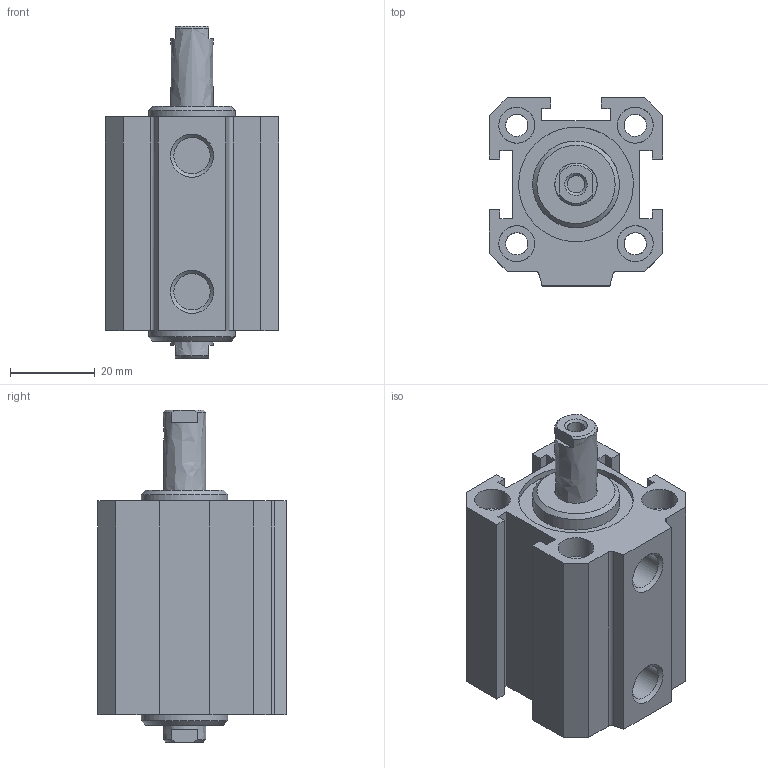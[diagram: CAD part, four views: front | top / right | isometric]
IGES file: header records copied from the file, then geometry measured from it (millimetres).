
Global section: file name: 1514_25_0015; native system: Autodesk Inventor 2014; preprocessor: unknown; author: A. Manieri; date: 20160824.111946; units: millimetre
Bounding box: 41 x 44.5 x 78.5 mm (x, y, z)
Volume: 63208.3 mm3; surface area: 26765.1 mm2
Topology: 2 solids, 2 shells, 106 faces, 280 edges, 198 vertices
Faces by surface type: bspline 106
